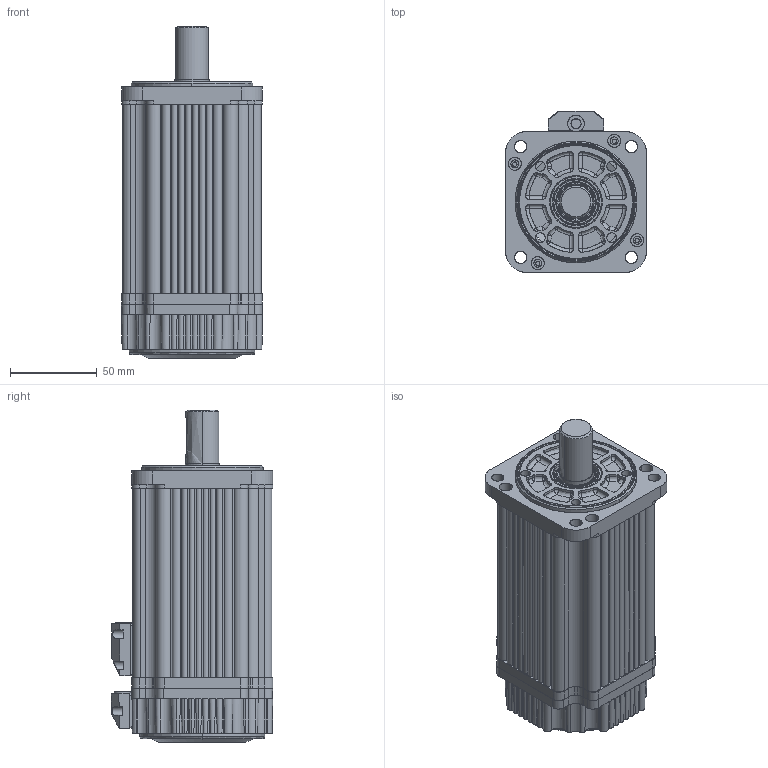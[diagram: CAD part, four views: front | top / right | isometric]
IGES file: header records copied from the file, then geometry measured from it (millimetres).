
Start section: SolidWorks IGES file using analytic representation for surfaces
Global section: file name: E:\est2012\d\17年任务\2017.01.04 外海需求电机3D图升级归档\EMJ-10APB22\EMJ-10(APB22,AFB22)without  holding brake.IGS,15HSolidWorks; native system: 2015; preprocessor: SolidWorks 2015; author: hongyunting; date: 170105.152759; units: millimetre
Bounding box: 81.21 x 93.16 x 191 mm (x, y, z)
Surface area: 82746 mm2 (no closed solid volume)
Topology: 0 solids, 0 shells, 680 faces, 10100 edges, 10060 vertices
Faces by surface type: revolution 471, bspline 209
